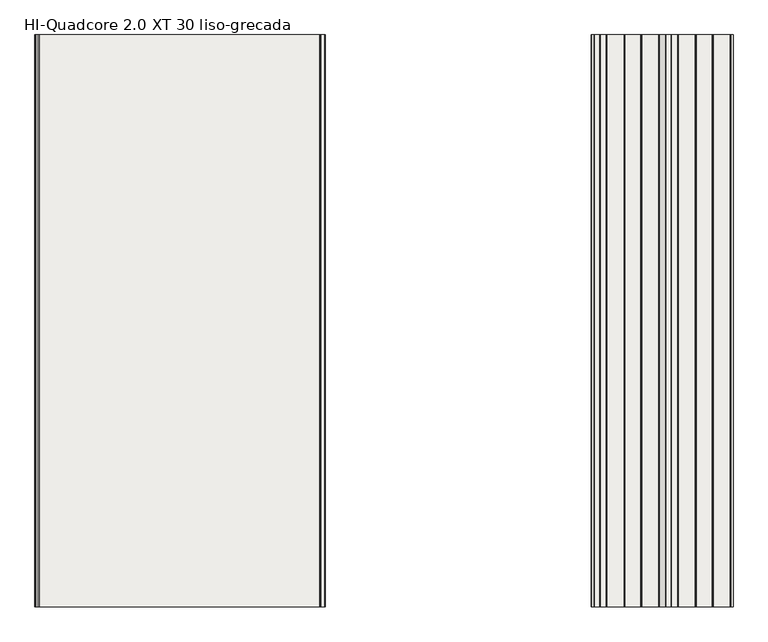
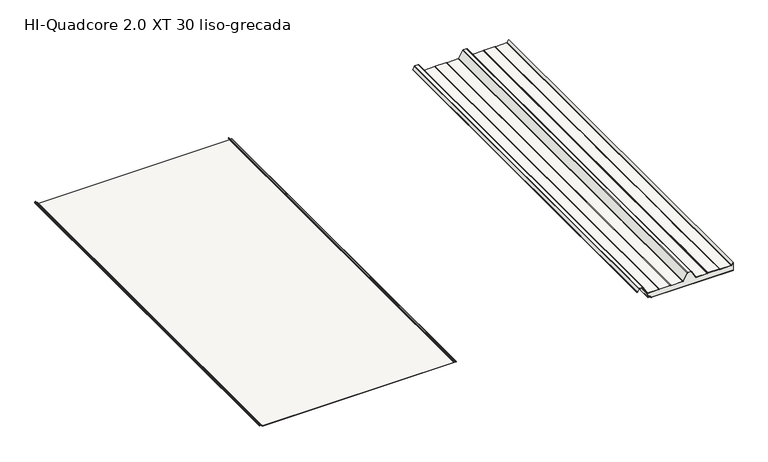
"""IFC4 building model written with IfcOpenShell, lengths in millimetres: slab geometry, HI_QuadCore2.0XT-XT DUAL : HI-Quadcore 2.0 XT 30 liso-grecada."""

from ifc_helpers import new_model, si_unit, point, frame, frame_2d, origin, place, context, project, spatial, polyline, circle_curve, trimmed, segment, composite_curve, outline, extrude, source, transform, mapped, element, save
from ifc_brep_helpers import plane_surface, cylinder_surface, revolved_surface, advanced_brep


def hi_quadcore_2_0_xt_30_liso_grecada_72e4314b(model_context):
    return source(origin(), model_context, "Body", "SolidModel", [
        extrude(outline(composite_curve([segment(polyline([(68.1649405, 2138.5141429), (53.6579587, 2130.3539656)]), True, "CONTINUOUS"), segment(trimmed(circle_curve(frame_2d((53.0451321, 2131.443435)), 1.25), [point((53.6579587, 2130.3539656))], [point((52.689225, 2132.6416963))], False, "CARTESIAN"), True, "CONTINUOUS"), segment(polyline([(52.689225, 2132.6416963), (55.7359115, 2133.437141), (55.9380053, 2132.663088), (52.9074492, 2131.8718547)]), True, "CONTINUOUS"), segment(trimmed(circle_curve(frame_2d((53.0451321, 2131.443435)), 0.45), [point((52.9074492, 2131.8718547))], [point((53.2657497, 2131.051226))], True, "CARTESIAN"), True, "CONTINUOUS"), segment(polyline([(53.2657497, 2131.051226), (67.7727315, 2139.2114033)]), True, "CONTINUOUS"), segment(trimmed(circle_curve(frame_2d((66.4, 2141.6518148)), 2.8), [point((67.7727315, 2139.2114033))], [point((69.2, 2141.6518148))], True, "CARTESIAN"), True, "CONTINUOUS"), segment(polyline([(69.2, 2141.6518148), (69.2, 2158.9311117)]), True, "CONTINUOUS"), segment(trimmed(circle_curve(frame_2d((66.4, 2158.9311117)), 2.8), [point((69.2, 2158.9311117))], [point((67.5457267, 2161.4859719))], True, "CARTESIAN"), True, "CONTINUOUS"), segment(polyline([(67.5457267, 2161.4859719), (31.2048889, 2181.3052775)]), True, "CONTINUOUS"), segment(trimmed(circle_curve(frame_2d((33.0, 2184.6545425)), 3.8), [point((31.2048889, 2181.3052775))], [point((29.2, 2184.6545425))], False, "CARTESIAN"), True, "CONTINUOUS"), segment(polyline([(29.2, 2184.6545425), (29.2, 2242.4489557)]), True, "CONTINUOUS"), segment(trimmed(circle_curve(frame_2d((33.0, 2242.4489557)), 3.8), [point((29.2, 2242.4489557))], [point((29.6973596, 2244.328468))], False, "CARTESIAN"), True, "CONTINUOUS"), segment(polyline([(29.6973596, 2244.328468), (30.912055, 2246.4629056)]), True, "CONTINUOUS"), segment(trimmed(circle_curve(frame_2d((29.0, 2247.5510443)), 2.2), [point((30.912055, 2246.4629056))], [point((31.2, 2247.5510443))], True, "CARTESIAN"), True, "CONTINUOUS"), segment(polyline([(31.2, 2247.5510443), (31.2, 2302.4489557)]), True, "CONTINUOUS"), segment(trimmed(circle_curve(frame_2d((29.0, 2302.4489557)), 2.2), [point((31.2, 2302.4489557))], [point((30.912055, 2303.5370944))], True, "CARTESIAN"), True, "CONTINUOUS"), segment(polyline([(30.912055, 2303.5370944), (29.6973596, 2305.671532)]), True, "CONTINUOUS"), segment(trimmed(circle_curve(frame_2d((33.0, 2307.5510443)), 3.8), [point((29.6973596, 2305.671532))], [point((29.2, 2307.5510443))], False, "CARTESIAN"), True, "CONTINUOUS"), segment(polyline([(29.2, 2307.5510443), (29.2, 2365.7454575)]), True, "CONTINUOUS"), segment(trimmed(circle_curve(frame_2d((33.0, 2365.7454575)), 3.8), [point((29.2, 2365.7454575))], [point((31.1370073, 2369.0574446))], False, "CARTESIAN"), True, "CONTINUOUS"), segment(polyline([(31.1370073, 2369.0574446), (68.0785747, 2389.8370763)]), True, "CONTINUOUS"), segment(trimmed(circle_curve(frame_2d((67.0, 2391.7545425)), 2.2), [point((68.0785747, 2389.8370763))], [point((69.2, 2391.7545425))], True, "CARTESIAN"), True, "CONTINUOUS"), segment(polyline([(69.2, 2391.7545425), (69.2, 2408.2454575)]), True, "CONTINUOUS"), segment(trimmed(circle_curve(frame_2d((67.0, 2408.2454575)), 2.2), [point((69.2, 2408.2454575))], [point((68.0785747, 2410.1629237))], True, "CARTESIAN"), True, "CONTINUOUS"), segment(polyline([(68.0785747, 2410.1629237), (31.1370073, 2430.9425554)]), True, "CONTINUOUS"), segment(trimmed(circle_curve(frame_2d((33.0, 2434.2545425)), 3.8), [point((31.1370073, 2430.9425554))], [point((29.2, 2434.2545425))], False, "CARTESIAN"), True, "CONTINUOUS"), segment(polyline([(29.2, 2434.2545425), (29.2, 2492.4489557)]), True, "CONTINUOUS"), segment(trimmed(circle_curve(frame_2d((33.0, 2492.4489557)), 3.8), [point((29.2, 2492.4489557))], [point((29.6973596, 2494.328468))], False, "CARTESIAN"), True, "CONTINUOUS"), segment(polyline([(29.6973596, 2494.328468), (30.912055, 2496.4629056)]), True, "CONTINUOUS"), segment(trimmed(circle_curve(frame_2d((29.0, 2497.5510443)), 2.2), [point((30.912055, 2496.4629056))], [point((31.2, 2497.5510443))], True, "CARTESIAN"), True, "CONTINUOUS"), segment(polyline([(31.2, 2497.5510443), (31.2, 2552.4489557)]), True, "CONTINUOUS"), segment(trimmed(circle_curve(frame_2d((29.0, 2552.4489557)), 2.2), [point((31.2, 2552.4489557))], [point((30.912055, 2553.5370944))], True, "CARTESIAN"), True, "CONTINUOUS"), segment(polyline([(30.912055, 2553.5370944), (29.6973596, 2555.671532)]), True, "CONTINUOUS"), segment(trimmed(circle_curve(frame_2d((33.0, 2557.5510443)), 3.8), [point((29.6973596, 2555.671532))], [point((29.2, 2557.5510443))], False, "CARTESIAN"), True, "CONTINUOUS"), segment(polyline([(29.2, 2557.5510443), (29.2, 2615.7454575)]), True, "CONTINUOUS"), segment(trimmed(circle_curve(frame_2d((33.0, 2615.7454575)), 3.8), [point((29.2, 2615.7454575))], [point((31.1370073, 2619.0574446))], False, "CARTESIAN"), True, "CONTINUOUS"), segment(polyline([(31.1370073, 2619.0574446), (41.5197374, 2624.8977303), (43.1515205, 2624.8977303), (31.5292163, 2618.3601842)]), True, "CONTINUOUS"), segment(trimmed(circle_curve(frame_2d((33.0, 2615.7454575)), 3.0), [point((31.5292163, 2618.3601842))], [point((30.0, 2615.7454575))], True, "CARTESIAN"), True, "CONTINUOUS"), segment(polyline([(30.0, 2615.7454575), (30.0, 2557.5510443)]), True, "CONTINUOUS"), segment(trimmed(circle_curve(frame_2d((33.0, 2557.5510443)), 3.0), [point((30.0, 2557.5510443))], [point((30.3926523, 2556.0672188))], True, "CARTESIAN"), True, "CONTINUOUS"), segment(polyline([(30.3926523, 2556.0672188), (31.6073477, 2553.9327812)]), True, "CONTINUOUS"), segment(trimmed(circle_curve(frame_2d((29.0, 2552.4489557)), 3.0), [point((31.6073477, 2553.9327812))], [point((32.0, 2552.4489557))], False, "CARTESIAN"), True, "CONTINUOUS"), segment(polyline([(32.0, 2552.4489557), (32.0, 2497.5510443)]), True, "CONTINUOUS"), segment(trimmed(circle_curve(frame_2d((29.0, 2497.5510443)), 3.0), [point((32.0, 2497.5510443))], [point((31.6073477, 2496.0672188))], False, "CARTESIAN"), True, "CONTINUOUS"), segment(polyline([(31.6073477, 2496.0672188), (30.3926523, 2493.9327812)]), True, "CONTINUOUS"), segment(trimmed(circle_curve(frame_2d((33.0, 2492.4489557)), 3.0), [point((30.3926523, 2493.9327812))], [point((30.0, 2492.4489557))], True, "CARTESIAN"), True, "CONTINUOUS"), segment(polyline([(30.0, 2492.4489557), (30.0, 2434.2545425)]), True, "CONTINUOUS"), segment(trimmed(circle_curve(frame_2d((33.0, 2434.2545425)), 3.0), [point((30.0, 2434.2545425))], [point((31.5292163, 2431.6398158))], True, "CARTESIAN"), True, "CONTINUOUS"), segment(polyline([(31.5292163, 2431.6398158), (68.4707837, 2410.8601842)]), True, "CONTINUOUS"), segment(trimmed(circle_curve(frame_2d((67.0, 2408.2454575)), 3.0), [point((68.4707837, 2410.8601842))], [point((70.0, 2408.2454575))], False, "CARTESIAN"), True, "CONTINUOUS"), segment(polyline([(70.0, 2408.2454575), (70.0, 2391.7545425)]), True, "CONTINUOUS"), segment(trimmed(circle_curve(frame_2d((67.0, 2391.7545425)), 3.0), [point((70.0, 2391.7545425))], [point((68.4707837, 2389.1398158))], False, "CARTESIAN"), True, "CONTINUOUS"), segment(polyline([(68.4707837, 2389.1398158), (31.5292163, 2368.3601842)]), True, "CONTINUOUS"), segment(trimmed(circle_curve(frame_2d((33.0, 2365.7454575)), 3.0), [point((31.5292163, 2368.3601842))], [point((30.0, 2365.7454575))], True, "CARTESIAN"), True, "CONTINUOUS"), segment(polyline([(30.0, 2365.7454575), (30.0, 2307.5510443)]), True, "CONTINUOUS"), segment(trimmed(circle_curve(frame_2d((33.0, 2307.5510443)), 3.0), [point((30.0, 2307.5510443))], [point((30.3926523, 2306.0672188))], True, "CARTESIAN"), True, "CONTINUOUS"), segment(polyline([(30.3926523, 2306.0672188), (31.6073477, 2303.9327812)]), True, "CONTINUOUS"), segment(trimmed(circle_curve(frame_2d((29.0, 2302.4489557)), 3.0), [point((31.6073477, 2303.9327812))], [point((32.0, 2302.4489557))], False, "CARTESIAN"), True, "CONTINUOUS"), segment(polyline([(32.0, 2302.4489557), (32.0, 2247.5510443)]), True, "CONTINUOUS"), segment(trimmed(circle_curve(frame_2d((29.0, 2247.5510443)), 3.0), [point((32.0, 2247.5510443))], [point((31.6073477, 2246.0672188))], False, "CARTESIAN"), True, "CONTINUOUS"), segment(polyline([(31.6073477, 2246.0672188), (30.3926523, 2243.9327812)]), True, "CONTINUOUS"), segment(trimmed(circle_curve(frame_2d((33.0, 2242.4489557)), 3.0), [point((30.3926523, 2243.9327812))], [point((30.0, 2242.4489557))], True, "CARTESIAN"), True, "CONTINUOUS"), segment(polyline([(30.0, 2242.4489557), (30.0, 2184.6545425)]), True, "CONTINUOUS"), segment(trimmed(circle_curve(frame_2d((33.0, 2184.6545425)), 3.0), [point((30.0, 2184.6545425))], [point((31.5852209, 2182.0090935))], True, "CARTESIAN"), True, "CONTINUOUS"), segment(polyline([(31.5852209, 2182.0090935), (67.9031732, 2162.2022691)]), True, "CONTINUOUS"), segment(trimmed(circle_curve(frame_2d((66.4, 2158.9311117)), 3.6), [point((67.9031732, 2162.2022691))], [point((70.0, 2158.9311117))], False, "CARTESIAN"), True, "CONTINUOUS"), segment(polyline([(70.0, 2158.9311117), (70.0, 2141.6518148)]), True, "CONTINUOUS"), segment(trimmed(circle_curve(frame_2d((66.4, 2141.6518148)), 3.6), [point((70.0, 2141.6518148))], [point((68.1649405, 2138.5141429))], False, "CARTESIAN"), True, "CONTINUOUS")], self_intersect=False)), frame((0.0, 0.0, 0.0), z_axis=(0.0, 1.0, 0.0), x_axis=(0.0, 0.0, 1.0)), (0.0, 0.0, 1.0), 2000.0),
        extrude(outline(composite_curve([segment(trimmed(circle_curve(frame_2d((11.9759207, 2187.8456418)), 2.0), [point((13.390095, 2186.4313891))], [point((11.9758652, 2185.8456418))], False, "CARTESIAN"), True, "CONTINUOUS"), segment(polyline([(11.9758652, 2185.8456418), (8.333684, 2185.8457428)]), True, "CONTINUOUS"), segment(trimmed(circle_curve(frame_2d((8.3337394, 2187.8457428)), 2.0), [point((8.333684, 2185.8457428))], [point((6.3390802, 2187.6996787))], False, "CARTESIAN"), True, "CONTINUOUS"), segment(polyline([(6.3390802, 2187.6996787), (5.5769243, 2198.1077232)]), True, "CONTINUOUS"), segment(trimmed(circle_curve(frame_2d((3.5874027, 2197.9032632)), 2.0), [point((5.5769243, 2198.1077232))], [point((3.5874582, 2199.9032632))], True, "CARTESIAN"), True, "CONTINUOUS"), segment(polyline([(3.5874582, 2199.9032632), (1.9861383, 2199.9033076)]), True, "CONTINUOUS"), segment(trimmed(circle_curve(frame_2d((1.9861938, 2201.9033076)), 2.0), [point((1.9861383, 2199.9033076))], [point((-0.0138062, 2201.903363))], False, "CARTESIAN"), True, "CONTINUOUS"), segment(polyline([(-0.0138062, 2201.903363), (-0.0020796, 2624.8977303), (0.7979204, 2624.8977303), (0.7861938, 2201.9033408)]), True, "CONTINUOUS"), segment(trimmed(circle_curve(frame_2d((1.9861938, 2201.9033076)), 1.2), [point((0.7861938, 2201.9033408))], [point((1.9861605, 2200.7033076))], True, "CARTESIAN"), True, "CONTINUOUS"), segment(polyline([(1.9861605, 2200.7033076), (3.5874804, 2200.7032632)]), True, "CONTINUOUS"), segment(trimmed(circle_curve(frame_2d((3.5874027, 2197.9032632)), 2.8), [point((3.5874804, 2200.7032632))], [point((6.3740035, 2198.1768616))], False, "CARTESIAN"), True, "CONTINUOUS"), segment(polyline([(6.3740035, 2198.1768616), (7.1369439, 2187.7581044)]), True, "CONTINUOUS"), segment(trimmed(circle_curve(frame_2d((8.3337394, 2187.8457428)), 1.2), [point((7.1369439, 2187.7581044))], [point((8.3337062, 2186.6457428))], True, "CARTESIAN"), True, "CONTINUOUS"), segment(polyline([(8.3337062, 2186.6457428), (11.9758874, 2186.6456418)]), True, "CONTINUOUS"), segment(trimmed(circle_curve(frame_2d((11.9759207, 2187.8456418)), 1.2), [point((11.9758874, 2186.6456418))], [point((12.8244253, 2186.9970902))], True, "CARTESIAN"), True, "CONTINUOUS"), segment(polyline([(12.8244253, 2186.9970902), (14.9306702, 2189.1032183), (15.4963556, 2188.5375329), (13.390095, 2186.4313891)]), True, "CONTINUOUS")], self_intersect=False)), frame((0.0, 0.0, 0.0), z_axis=(0.0, 1.0, 0.0), x_axis=(0.0, 0.0, 1.0)), (0.0, 0.0, 1.0), 2000.0),
        extrude(outline(composite_curve([segment(trimmed(circle_curve(frame_2d((33.0, 2615.7454575)), 3.8), [point((31.1370073, 2619.0574446))], [point((29.2, 2615.7454575))], True, "CARTESIAN"), True, "CONTINUOUS"), segment(polyline([(29.2, 2615.7454575), (29.2, 2557.5510443)]), True, "CONTINUOUS"), segment(trimmed(circle_curve(frame_2d((33.0, 2557.5510443)), 3.8), [point((29.2, 2557.5510443))], [point((29.6973596, 2555.671532))], True, "CARTESIAN"), True, "CONTINUOUS"), segment(polyline([(29.6973596, 2555.671532), (30.912055, 2553.5370944)]), True, "CONTINUOUS"), segment(trimmed(circle_curve(frame_2d((29.0, 2552.4489557)), 2.2), [point((30.912055, 2553.5370944))], [point((31.2, 2552.4489557))], False, "CARTESIAN"), True, "CONTINUOUS"), segment(polyline([(31.2, 2552.4489557), (31.2, 2497.5510443)]), True, "CONTINUOUS"), segment(trimmed(circle_curve(frame_2d((29.0, 2497.5510443)), 2.2), [point((31.2, 2497.5510443))], [point((30.912055, 2496.4629056))], False, "CARTESIAN"), True, "CONTINUOUS"), segment(polyline([(30.912055, 2496.4629056), (29.6973596, 2494.328468)]), True, "CONTINUOUS"), segment(trimmed(circle_curve(frame_2d((33.0, 2492.4489557)), 3.8), [point((29.6973596, 2494.328468))], [point((29.2, 2492.4489557))], True, "CARTESIAN"), True, "CONTINUOUS"), segment(polyline([(29.2, 2492.4489557), (29.2, 2434.2545425)]), True, "CONTINUOUS"), segment(trimmed(circle_curve(frame_2d((33.0, 2434.2545425)), 3.8), [point((29.2, 2434.2545425))], [point((31.1370073, 2430.9425554))], True, "CARTESIAN"), True, "CONTINUOUS"), segment(polyline([(31.1370073, 2430.9425554), (68.0785747, 2410.1629237)]), True, "CONTINUOUS"), segment(trimmed(circle_curve(frame_2d((67.0, 2408.2454575)), 2.2), [point((68.0785747, 2410.1629237))], [point((69.2, 2408.2454575))], False, "CARTESIAN"), True, "CONTINUOUS"), segment(polyline([(69.2, 2408.2454575), (69.2, 2391.7545425)]), True, "CONTINUOUS"), segment(trimmed(circle_curve(frame_2d((67.0, 2391.7545425)), 2.2), [point((69.2, 2391.7545425))], [point((68.0785747, 2389.8370763))], False, "CARTESIAN"), True, "CONTINUOUS"), segment(polyline([(68.0785747, 2389.8370763), (31.1370073, 2369.0574446)]), True, "CONTINUOUS"), segment(trimmed(circle_curve(frame_2d((33.0, 2365.7454575)), 3.8), [point((31.1370073, 2369.0574446))], [point((29.2, 2365.7454575))], True, "CARTESIAN"), True, "CONTINUOUS"), segment(polyline([(29.2, 2365.7454575), (29.2, 2307.5510443)]), True, "CONTINUOUS"), segment(trimmed(circle_curve(frame_2d((33.0, 2307.5510443)), 3.8), [point((29.2, 2307.5510443))], [point((29.6973596, 2305.671532))], True, "CARTESIAN"), True, "CONTINUOUS"), segment(polyline([(29.6973596, 2305.671532), (30.912055, 2303.5370944)]), True, "CONTINUOUS"), segment(trimmed(circle_curve(frame_2d((29.0, 2302.4489557)), 2.2), [point((30.912055, 2303.5370944))], [point((31.2, 2302.4489557))], False, "CARTESIAN"), True, "CONTINUOUS"), segment(polyline([(31.2, 2302.4489557), (31.2, 2247.5510443)]), True, "CONTINUOUS"), segment(trimmed(circle_curve(frame_2d((29.0, 2247.5510443)), 2.2), [point((31.2, 2247.5510443))], [point((30.912055, 2246.4629056))], False, "CARTESIAN"), True, "CONTINUOUS"), segment(polyline([(30.912055, 2246.4629056), (29.6973596, 2244.328468)]), True, "CONTINUOUS"), segment(trimmed(circle_curve(frame_2d((33.0, 2242.4489557)), 3.8), [point((29.6973596, 2244.328468))], [point((29.2, 2242.4489557))], True, "CARTESIAN"), True, "CONTINUOUS"), segment(polyline([(29.2, 2242.4489557), (29.2, 2184.6545425)]), True, "CONTINUOUS"), segment(trimmed(circle_curve(frame_2d((33.0, 2184.6545425)), 3.8), [point((29.2, 2184.6545425))], [point((31.2048889, 2181.3052775))], True, "CARTESIAN"), True, "CONTINUOUS"), segment(polyline([(31.2048889, 2181.3052775), (7.0308356, 2184.4622222), (7.2414508, 2185.8457731), (11.9758652, 2185.8456418)]), True, "CONTINUOUS"), segment(trimmed(circle_curve(frame_2d((11.9759207, 2187.8456418)), 2.0), [point((11.9758652, 2185.8456418))], [point((13.390095, 2186.4313891))], True, "CARTESIAN"), True, "CONTINUOUS"), segment(polyline([(13.390095, 2186.4313891), (15.4963556, 2188.5375329), (14.9306702, 2189.1032183), (12.8244253, 2186.9970902)]), True, "CONTINUOUS"), segment(trimmed(circle_curve(frame_2d((11.9759207, 2187.8456418)), 1.2), [point((12.8244253, 2186.9970902))], [point((11.9758874, 2186.6456418))], False, "CARTESIAN"), True, "CONTINUOUS"), segment(polyline([(11.9758874, 2186.6456418), (8.3337062, 2186.6457428)]), True, "CONTINUOUS"), segment(trimmed(circle_curve(frame_2d((8.3337394, 2187.8457428)), 1.2), [point((8.3337062, 2186.6457428))], [point((7.1369439, 2187.7581044))], False, "CARTESIAN"), True, "CONTINUOUS"), segment(polyline([(7.1369439, 2187.7581044), (6.3740035, 2198.1768616)]), True, "CONTINUOUS"), segment(trimmed(circle_curve(frame_2d((3.5874027, 2197.9032632)), 2.8), [point((6.3740035, 2198.1768616))], [point((3.5874804, 2200.7032632))], True, "CARTESIAN"), True, "CONTINUOUS"), segment(polyline([(3.5874804, 2200.7032632), (1.9861605, 2200.7033076)]), True, "CONTINUOUS"), segment(trimmed(circle_curve(frame_2d((1.9861938, 2201.9033076)), 1.2), [point((1.9861605, 2200.7033076))], [point((0.7861938, 2201.9033408))], False, "CARTESIAN"), True, "CONTINUOUS"), segment(polyline([(0.7861938, 2201.9033408), (0.7979204, 2624.8977303), (41.5197374, 2624.8977303), (31.1370073, 2619.0574446)]), True, "CONTINUOUS")], self_intersect=False)), frame((0.0, 0.0, 0.0), z_axis=(0.0, 1.0, 0.0), x_axis=(0.0, 0.0, 1.0)), (0.0, 0.0, 1.0), 2000.0),
        advanced_brep(
        [(186.4313891, 0.0, 13.3795578), (185.8456418, 0.0, 11.9654043), (185.8456037, 0.0, 8.2995811), (187.6996787, 0.0, 6.328543), (198.1077232, 0.0, 5.5663871), (199.9032632, 0.0, 3.5769209), (199.9033076, 0.0, 1.9756011), (201.903363, 0.0, -0.0243435), (1197.9162803, 0.0, 0.003269), (1199.9046779, 0.0, 2.0032908), (1199.904653, 0.0, 2.9012893), (1198.0077486, 0.0, 4.8985749), (1186.1928118, 0.0, 5.7933732), (1184.3438482, 0.0, 7.7876066), (1184.3437386, 0.0, 11.7402379), (1183.757913, 0.0, 13.1544352), (1182.3436602, 0.0, 14.5686095), (1181.7779748, 0.0, 14.0029241), (1183.1922433, 0.0, 12.5887341), (1183.5437386, 0.0, 11.7402157), (1183.5438482, 0.0, 7.7875844), (1186.1323972, 0.0, 4.9956577), (1197.958132, 0.0, 4.1000416), (1199.104653, 0.0, 2.9012672), (1199.1046779, 0.0, 2.0032686), (1197.9136554, 0.0, 0.8032689), (201.9033408, 0.0, 0.7756565), (200.7033076, 0.0, 1.9756233), (200.7032632, 0.0, 3.5769431), (198.1768616, 0.0, 6.3634663), (187.7581044, 0.0, 7.1264067), (186.6457428, 0.0, 8.3231689), (186.6456418, 0.0, 11.965396), (186.9970902, 0.0, 12.8138881), (189.1032183, 0.0, 14.920133), (188.5375329, 0.0, 15.4858184), (186.4313891, 2000.0, 13.3795578), (188.5375329, 2000.0, 15.4858184), (189.1032183, 2000.0, 14.920133), (186.9970902, 2000.0, 12.8138881), (186.6456418, 2000.0, 11.965396), (186.6456037, 2000.0, 8.2995728), (187.7581044, 2000.0, 7.1264067), (198.1768616, 2000.0, 6.3634663), (200.7032632, 2000.0, 3.5769431), (200.7033076, 2000.0, 1.9756233), (201.9033408, 2000.0, 0.7756565), (1197.9136554, 2000.0, 0.8032689), (1199.1046779, 2000.0, 2.0032686), (1199.104653, 2000.0, 2.9012672), (1197.958132, 2000.0, 4.1000416), (1186.1323972, 2000.0, 4.9956577), (1183.5438482, 2000.0, 7.7875844), (1183.5437386, 2000.0, 11.7402157), (1183.1922433, 2000.0, 12.5887341), (1181.7779748, 2000.0, 14.0029241), (1182.3436602, 2000.0, 14.5686095), (1183.757913, 2000.0, 13.1544352), (1184.3437386, 2000.0, 11.7402379), (1184.3438482, 2000.0, 7.7876066), (1186.1928118, 2000.0, 5.7933732), (1198.0077486, 2000.0, 4.8985749), (1199.904653, 2000.0, 2.9012893), (1199.9046779, 2000.0, 2.0032908), (1197.9162803, 2000.0, 0.003269), (201.903363, 2000.0, -0.0243435), (199.9033076, 2000.0, 1.9756011), (199.9032632, 2000.0, 3.5769209), (198.1077232, 2000.0, 5.5663871), (187.6996787, 2000.0, 6.328543), (185.8457428, 2000.0, 8.3231467), (185.8456418, 2000.0, 11.9654043)],
        [
            (0, 1, circle_curve(frame((187.8456418, 0.0, 11.9653834), z_axis=(0.0, -1.0, 0.0), x_axis=(1.0, 0.0, 0.0)), 2.0)),
            (1, 2),
            (2, 3, circle_curve(frame((187.8457428, 0.0, 8.3232022), z_axis=(0.0, -1.0, 0.0), x_axis=(1.0, 0.0, 0.0)), 2.0)),
            (3, 4),
            (4, 5, circle_curve(frame((197.9032632, 0.0, 3.5768655), z_axis=(0.0, 1.0, 0.0), x_axis=(1.0, 0.0, 0.0)), 2.0)),
            (5, 6),
            (6, 7, circle_curve(frame((201.9033076, 0.0, 1.9756565), z_axis=(0.0, -1.0, 0.0), x_axis=(1.0, 0.0, 0.0)), 2.0)),
            (7, 8),
            (8, 9, circle_curve(frame((1197.9046779, 0.0, 2.0032353), z_axis=(0.0, -1.0, 0.0), x_axis=(1.0, 0.0, 0.0)), 2.0)),
            (9, 10),
            (10, 11, circle_curve(frame((1197.904653, 0.0, 2.9012339), z_axis=(0.0, -1.0, 0.0), x_axis=(1.0, 0.0, 0.0)), 2.0)),
            (11, 12),
            (12, 13, circle_curve(frame((1186.3438482, 0.0, 7.7876621), z_axis=(0.0, 1.0, 0.0), x_axis=(1.0, 0.0, 0.0)), 2.0)),
            (13, 14),
            (14, 15, circle_curve(frame((1182.3437386, 0.0, 11.7401824), z_axis=(0.0, -1.0, 0.0), x_axis=(1.0, 0.0, 0.0)), 2.0)),
            (15, 16),
            (16, 17),
            (17, 18),
            (18, 19, circle_curve(frame((1182.3437386, 0.0, 11.7401824), z_axis=(0.0, 1.0, 0.0), x_axis=(1.0, 0.0, 0.0)), 1.2)),
            (19, 20),
            (20, 21, circle_curve(frame((1186.3438482, 0.0, 7.7876621), z_axis=(0.0, -1.0, 0.0), x_axis=(1.0, 0.0, 0.0)), 2.8)),
            (21, 22),
            (22, 23, circle_curve(frame((1197.904653, 0.0, 2.9012339), z_axis=(0.0, 1.0, 0.0), x_axis=(1.0, 0.0, 0.0)), 1.2)),
            (23, 24),
            (24, 25, circle_curve(frame((1197.9046779, 0.0, 2.0032353), z_axis=(0.0, 1.0, 0.0), x_axis=(1.0, 0.0, 0.0)), 1.2)),
            (25, 26),
            (26, 27, circle_curve(frame((201.9033076, 0.0, 1.9756565), z_axis=(0.0, 1.0, 0.0), x_axis=(1.0, 0.0, 0.0)), 1.2)),
            (27, 28),
            (28, 29, circle_curve(frame((197.9032632, 0.0, 3.5768655), z_axis=(0.0, -1.0, 0.0), x_axis=(1.0, 0.0, 0.0)), 2.8)),
            (29, 30),
            (30, 31, circle_curve(frame((187.8457428, 0.0, 8.3232022), z_axis=(0.0, 1.0, 0.0), x_axis=(1.0, 0.0, 0.0)), 1.2)),
            (31, 32),
            (32, 33, circle_curve(frame((187.8456418, 0.0, 11.9653834), z_axis=(0.0, 1.0, 0.0), x_axis=(1.0, 0.0, 0.0)), 1.2)),
            (33, 34),
            (34, 35),
            (35, 0),
            (36, 37),
            (37, 38),
            (38, 39),
            (39, 40, circle_curve(frame((187.8456418, 2000.0, 11.9653834), z_axis=(0.0, -1.0, 0.0), x_axis=(1.0, 0.0, 0.0)), 1.2)),
            (40, 41),
            (41, 42, circle_curve(frame((187.8457428, 2000.0, 8.3232022), z_axis=(0.0, -1.0, 0.0), x_axis=(1.0, 0.0, 0.0)), 1.2)),
            (42, 43),
            (43, 44, circle_curve(frame((197.9032632, 2000.0, 3.5768655), z_axis=(0.0, 1.0, 0.0), x_axis=(1.0, 0.0, 0.0)), 2.8)),
            (44, 45),
            (45, 46, circle_curve(frame((201.9033076, 2000.0, 1.9756565), z_axis=(0.0, -1.0, 0.0), x_axis=(1.0, 0.0, 0.0)), 1.2)),
            (46, 47),
            (47, 48, circle_curve(frame((1197.9046779, 2000.0, 2.0032353), z_axis=(0.0, -1.0, 0.0), x_axis=(1.0, 0.0, 0.0)), 1.2)),
            (48, 49),
            (49, 50, circle_curve(frame((1197.904653, 2000.0, 2.9012339), z_axis=(0.0, -1.0, 0.0), x_axis=(1.0, 0.0, 0.0)), 1.2)),
            (50, 51),
            (51, 52, circle_curve(frame((1186.3438482, 2000.0, 7.7876621), z_axis=(0.0, 1.0, 0.0), x_axis=(1.0, 0.0, 0.0)), 2.8)),
            (52, 53),
            (53, 54, circle_curve(frame((1182.3437386, 2000.0, 11.7401824), z_axis=(0.0, -1.0, 0.0), x_axis=(1.0, 0.0, 0.0)), 1.2)),
            (54, 55),
            (55, 56),
            (56, 57),
            (57, 58, circle_curve(frame((1182.3437386, 2000.0, 11.7401824), z_axis=(0.0, 1.0, 0.0), x_axis=(1.0, 0.0, 0.0)), 2.0)),
            (58, 59),
            (59, 60, circle_curve(frame((1186.3438482, 2000.0, 7.7876621), z_axis=(0.0, -1.0, 0.0), x_axis=(1.0, 0.0, 0.0)), 2.0)),
            (60, 61),
            (61, 62, circle_curve(frame((1197.904653, 2000.0, 2.9012339), z_axis=(0.0, 1.0, 0.0), x_axis=(1.0, 0.0, 0.0)), 2.0)),
            (62, 63),
            (63, 64, circle_curve(frame((1197.9046779, 2000.0, 2.0032353), z_axis=(0.0, 1.0, 0.0), x_axis=(1.0, 0.0, 0.0)), 2.0)),
            (64, 65),
            (65, 66, circle_curve(frame((201.9033076, 2000.0, 1.9756565), z_axis=(0.0, 1.0, 0.0), x_axis=(1.0, 0.0, 0.0)), 2.0)),
            (66, 67),
            (67, 68, circle_curve(frame((197.9032632, 2000.0, 3.5768655), z_axis=(0.0, -1.0, 0.0), x_axis=(1.0, 0.0, 0.0)), 2.0)),
            (68, 69),
            (69, 70, circle_curve(frame((187.8457428, 2000.0, 8.3232022), z_axis=(0.0, 1.0, 0.0), x_axis=(1.0, 0.0, 0.0)), 2.0)),
            (70, 71),
            (71, 36, circle_curve(frame((187.8456418, 2000.0, 11.9653834), z_axis=(0.0, 1.0, 0.0), x_axis=(1.0, 0.0, 0.0)), 2.0)),
            (0, 36),
            (71, 1),
            (70, 2),
            (69, 3),
            (68, 4),
            (67, 5),
            (66, 6),
            (65, 7),
            (64, 8),
            (63, 9),
            (62, 10),
            (61, 11),
            (60, 12),
            (59, 13),
            (58, 14),
            (57, 15),
            (56, 16),
            (55, 17),
            (54, 18),
            (53, 19),
            (52, 20),
            (51, 21),
            (50, 22),
            (49, 23),
            (48, 24),
            (47, 25),
            (46, 26),
            (45, 27),
            (44, 28),
            (43, 29),
            (42, 30),
            (41, 31),
            (40, 32),
            (39, 33),
            (38, 34),
            (37, 35),
        ],
        [
            plane_surface(frame((189.8456418, 0.0, 11.9653834), z_axis=(0.0, -1.0, 0.0), x_axis=(0.0, 0.0, 1.0))),
            plane_surface(frame((189.8456418, 2000.0, 11.9653834), z_axis=(0.0, 1.0, 0.0), x_axis=(0.0, 0.0, -1.0))),
            cylinder_surface(frame((187.8456418, 2000.0, 11.9653834), z_axis=(0.0, -1.0, 0.0), x_axis=(1.0, 0.0, 0.0)), 2.0),
            plane_surface(frame((185.8456418, 0.0, 11.9654043), z_axis=(-0.9999999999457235, 0.0, 1.041887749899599e-05), x_axis=(0.0, 1.0, 0.0))),
            cylinder_surface(frame((187.8457428, 2000.0, 8.3232022), z_axis=(0.0, -1.0, 0.0), x_axis=(1.0, 0.0, 0.0)), 2.0),
            plane_surface(frame((187.6996787, 0.0, 6.328543), z_axis=(-0.07303203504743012, 0.0, -0.9973295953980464), x_axis=(0.0, 1.0, 0.0))),
            revolved_surface(polyline([(199.9032632, 2000.0, 3.5768655), (199.9032632, 0.0, 3.5768655)]), (197.9032632, 2000.0, 3.5768655), (0.0, 1.0, 0.0)),
            plane_surface(frame((199.9032632, 0.0, 3.5769209), z_axis=(-0.9999999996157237, 0.0, -2.7722781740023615e-05), x_axis=(0.0, 1.0, 0.0))),
            cylinder_surface(frame((201.9033076, 2000.0, 1.9756565), z_axis=(0.0, -1.0, 0.0), x_axis=(1.0, 0.0, 0.0)), 2.0),
            plane_surface(frame((201.903363, 0.0, -0.0243435), z_axis=(2.772298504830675e-05, 0.0, -0.9999999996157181), x_axis=(0.0, 1.0, 0.0))),
            cylinder_surface(frame((1197.9046779, 2000.0, 2.0032353), z_axis=(0.0, -1.0, 0.0), x_axis=(1.0, 0.0, 0.0)), 2.0),
            plane_surface(frame((1199.9046779, 0.0, 2.0032908), z_axis=(0.9999999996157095, 0.0, 2.7723295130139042e-05), x_axis=(0.0, 1.0, 0.0))),
            cylinder_surface(frame((1197.904653, 2000.0, 2.9012339), z_axis=(0.0, -1.0, 0.0), x_axis=(1.0, 0.0, 0.0)), 2.0),
            plane_surface(frame((1198.0077486, 0.0, 4.8985749), z_axis=(0.07551822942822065, 0.0, 0.9971444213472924), x_axis=(0.0, 1.0, 0.0))),
            revolved_surface(polyline([(1188.3438482, 2000.0, 7.7876621), (1188.3438482, 0.0, 7.7876621)]), (1186.3438482, 2000.0, 7.7876621), (0.0, 1.0, 0.0)),
            plane_surface(frame((1184.3438482, 0.0, 7.7876066), z_axis=(0.9999999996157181, 0.0, 2.7722984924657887e-05), x_axis=(0.0, 1.0, 0.0))),
            cylinder_surface(frame((1182.3437386, 2000.0, 11.7401824), z_axis=(0.0, -1.0, 0.0), x_axis=(1.0, 0.0, 0.0)), 2.0),
            plane_surface(frame((1183.757913, 0.0, 13.1544352), z_axis=(0.7070871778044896, 0.0, 0.7071263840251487), x_axis=(0.0, 1.0, 0.0))),
            plane_surface(frame((1182.3436602, 0.0, 14.5686095), z_axis=(-0.7071067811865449, 0.0, 0.7071067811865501), x_axis=(0.0, 1.0, 0.0))),
            plane_surface(frame((1181.7779748, 0.0, 14.0029241), z_axis=(-0.7070871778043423, 0.0, -0.707126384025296), x_axis=(0.0, 1.0, 0.0))),
            revolved_surface(polyline([(1183.5437386, 2000.0, 11.7401824), (1183.5437386, 0.0, 11.7401824)]), (1182.3437386, 2000.0, 11.7401824), (0.0, 1.0, 0.0)),
            plane_surface(frame((1183.5437386, 0.0, 11.7402157), z_axis=(-0.9999999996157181, 0.0, -2.7722985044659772e-05), x_axis=(0.0, 1.0, 0.0))),
            cylinder_surface(frame((1186.3438482, 2000.0, 7.7876621), z_axis=(0.0, -1.0, 0.0), x_axis=(1.0, 0.0, 0.0)), 2.8),
            plane_surface(frame((1186.1323972, 0.0, 4.9956577), z_axis=(-0.07551822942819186, 0.0, -0.9971444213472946), x_axis=(0.0, 1.0, 0.0))),
            revolved_surface(polyline([(1199.104653, 2000.0, 2.9012339), (1199.104653, 0.0, 2.9012339)]), (1197.904653, 2000.0, 2.9012339), (0.0, 1.0, 0.0)),
            plane_surface(frame((1199.104653, 0.0, 2.9012672), z_axis=(-0.9999999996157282, 0.0, -2.7722622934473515e-05), x_axis=(0.0, 1.0, 0.0))),
            revolved_surface(polyline([(1199.1046779, 2000.0, 2.0032353), (1199.1046779, 0.0, 2.0032353)]), (1197.9046779, 2000.0, 2.0032353), (0.0, 1.0, 0.0)),
            plane_surface(frame((1197.9136554, 0.0, 0.8032689), z_axis=(-2.7722985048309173e-05, 0.0, 0.9999999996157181), x_axis=(0.0, 1.0, 0.0))),
            revolved_surface(polyline([(203.1033076, 2000.0, 1.9756565), (203.1033076, 0.0, 1.9756565)]), (201.9033076, 2000.0, 1.9756565), (0.0, 1.0, 0.0)),
            plane_surface(frame((200.7033076, 0.0, 1.9756233), z_axis=(0.9999999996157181, 0.0, 2.7722983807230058e-05), x_axis=(0.0, 1.0, 0.0))),
            cylinder_surface(frame((197.9032632, 2000.0, 3.5768655), z_axis=(0.0, -1.0, 0.0), x_axis=(1.0, 0.0, 0.0)), 2.8),
            plane_surface(frame((198.1768616, 0.0, 6.3634663), z_axis=(0.0730320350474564, 0.0, 0.9973295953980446), x_axis=(0.0, 1.0, 0.0))),
            revolved_surface(polyline([(189.0457428, 2000.0, 8.3232022), (189.0457428, 0.0, 8.3232022)]), (187.8457428, 2000.0, 8.3232022), (0.0, 1.0, 0.0)),
            plane_surface(frame((186.6456037, 0.0, 8.2995728), z_axis=(0.9999999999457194, 0.0, -1.0419274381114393e-05), x_axis=(0.0, 1.0, 0.0))),
            revolved_surface(polyline([(189.0456418, 2000.0, 11.9653834), (189.0456418, 0.0, 11.9653834)]), (187.8456418, 2000.0, 11.9653834), (0.0, 1.0, 0.0)),
            plane_surface(frame((186.9970902, 0.0, 12.8138881), z_axis=(0.7071263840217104, 0.0, -0.7070871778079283), x_axis=(0.0, 1.0, 0.0))),
            plane_surface(frame((189.1032183, 0.0, 14.920133), z_axis=(0.7071067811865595, 0.0, 0.7071067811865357), x_axis=(0.0, 1.0, 0.0))),
            plane_surface(frame((188.5375329, 0.0, 15.4858184), z_axis=(-0.7071263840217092, 0.0, 0.7070871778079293), x_axis=(0.0, 1.0, 0.0))),
        ],
        [
            (0, [[1, 2, 3, 4, 5, 6, 7, 8, 9, 10, 11, 12, 13, 14, 15, 16, 17, 18, 19, 20, 21, 22, 23, 24, 25, 26, 27, 28, 29, 30, 31, 32, 33, 34, 35, 36]]),
            (1, [[37, 38, 39, 40, 41, 42, 43, 44, 45, 46, 47, 48, 49, 50, 51, 52, 53, 54, 55, 56, 57, 58, 59, 60, 61, 62, 63, 64, 65, 66, 67, 68, 69, 70, 71, 72]]),
            (2, [[-1, 73, -72, 74]]),
            (3, [[-2, -74, -71, 75]]),
            (4, [[-3, -75, -70, 76]]),
            (5, [[-4, -76, -69, 77]]),
            (6, [[-5, -77, -68, 78]]),
            (7, [[-6, -78, -67, 79]]),
            (8, [[-7, -79, -66, 80]]),
            (9, [[-8, -80, -65, 81]]),
            (10, [[-9, -81, -64, 82]]),
            (11, [[-10, -82, -63, 83]]),
            (12, [[-11, -83, -62, 84]]),
            (13, [[-12, -84, -61, 85]]),
            (14, [[-13, -85, -60, 86]]),
            (15, [[-14, -86, -59, 87]]),
            (16, [[-15, -87, -58, 88]]),
            (17, [[-16, -88, -57, 89]]),
            (18, [[-17, -89, -56, 90]]),
            (19, [[-18, -90, -55, 91]]),
            (20, [[-19, -91, -54, 92]]),
            (21, [[-20, -92, -53, 93]]),
            (22, [[-21, -93, -52, 94]]),
            (23, [[-22, -94, -51, 95]]),
            (24, [[-23, -95, -50, 96]]),
            (25, [[-24, -96, -49, 97]]),
            (26, [[-25, -97, -48, 98]]),
            (27, [[-26, -98, -47, 99]]),
            (28, [[-27, -99, -46, 100]]),
            (29, [[-28, -100, -45, 101]]),
            (30, [[-29, -101, -44, 102]]),
            (31, [[-30, -102, -43, 103]]),
            (32, [[-31, -103, -42, 104]]),
            (33, [[-32, -104, -41, 105]]),
            (34, [[-33, -105, -40, 106]]),
            (35, [[-34, -106, -39, 107]]),
            (36, [[-35, -107, -38, 108]]),
            (37, [[-36, -108, -37, -73]]),
        ],
    ),
    ])


if __name__ == "__main__":
    model = new_model("IFC4")
    model_context = context("Model", 3, world=origin())
    ifc_project = project(units=[si_unit("LENGTHUNIT", "METRE", prefix="MILLI")], contexts=[model_context])
    site = spatial("IfcSite", under=ifc_project)
    building = spatial("IfcBuilding", under=site)
    placement = place(None, origin())
    hi_quadcore_2_0_xt_30_liso_grecada_shape = hi_quadcore_2_0_xt_30_liso_grecada_72e4314b(model_context)
    element("IfcSlab", 1, ObjectType="HI_QuadCore2.0XT-XT DUAL : HI-Quadcore 2.0 XT 30 liso-grecada", at=placement, inside=building, context=model_context, shape_type="MappedRepresentation", body=[
        mapped(hi_quadcore_2_0_xt_30_liso_grecada_shape, transform((0.0, 0.0, 0.0), x_axis=(1.0, 0.0, 0.0), y_axis=(0.0, 1.0, 0.0), z_axis=(0.0, 0.0, 1.0))),
    ])
    save(model, "model.ifc")
